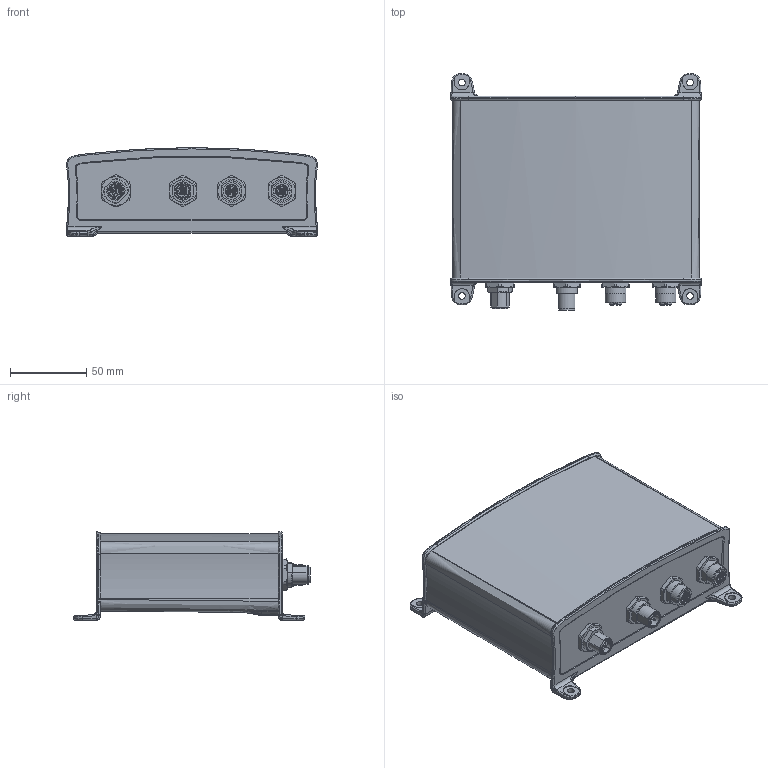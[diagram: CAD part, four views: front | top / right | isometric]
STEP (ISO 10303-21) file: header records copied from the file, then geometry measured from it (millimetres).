
FILE_DESCRIPTION (( 'STEP AP203' ), '1' );
FILE_NAME ('FPS202.242-004-IOL.STEP', '2026-06-22T14:04:10', ( '' ), ( '' ), 'SwSTEP 2.0', 'SolidWorks 2024', '' );
FILE_SCHEMA (( 'CONFIG_CONTROL_DESIGN' ));
Length unit declared in the file: millimetre
Products named in the file (1): FPS202.242-004-IOL
Bounding box: 164.8 x 155.6 x 58.23 mm (x, y, z)
Volume: 985672.4 mm3; surface area: 76362.7 mm2
Topology: 1 solids, 4 shells, 1033 faces, 2673 edges, 1697 vertices
Faces by surface type: plane 340, bspline 333, cylinder 215, cone 75, torus 60, sphere 10
Full cylindrical faces by diameter (mm): 0.785 x10, 1 x5, 1.1 x10, 8.2 x2, 8.3 x1, 10.4 x1, 10.8 x2, 10.917 x2, 13 x1
Entity records: 48522 total; most frequent: CARTESIAN_POINT 26364, ORIENTED_EDGE 5084, DIRECTION 3702, EDGE_CURVE 2542, VERTEX_POINT 1655, AXIS2_PLACEMENT_3D 1352, EDGE_LOOP 1183, FACE_OUTER_BOUND 1070
